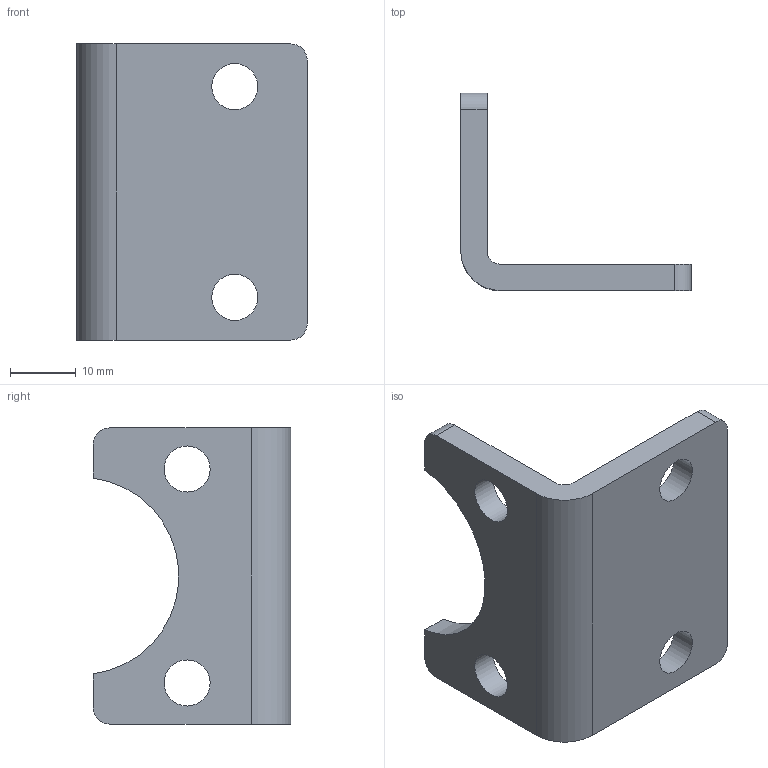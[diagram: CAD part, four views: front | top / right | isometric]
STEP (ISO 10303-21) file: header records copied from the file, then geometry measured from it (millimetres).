
FILE_DESCRIPTION((''),'2;1');
FILE_NAME('K:\A-Roberto\_Inventor\Rev.Librerie\FISSAGGI\1320_Ø_05_1F\STEP(1320_Ø_05_1F)\1320_32_05_1F.stp','2006-07-10T15:31:03',('rivolro1'),(''),'Autodesk Inventor 11','Autodesk Inventor 11','');
FILE_SCHEMA(('AUTOMOTIVE_DESIGN { 1 0 10303 214 1 1 1 1 }'));
Length unit declared in the file: millimetre
Products named in the file (1): 1320_32_05_1F
Bounding box: 35 x 30 x 45 mm (x, y, z)
Volume: 8859.6 mm3; surface area: 5652 mm2
Topology: 1 solids, 1 shells, 20 faces, 58 edges, 40 vertices
Faces by surface type: plane 9, cylinder 6, bspline 5
Entity records: 724 total; most frequent: CARTESIAN_POINT 192, DIRECTION 104, ORIENTED_EDGE 100, EDGE_CURVE 50, AXIS2_PLACEMENT_3D 38, VERTEX_POINT 36, EDGE_LOOP 32, VECTOR 28
